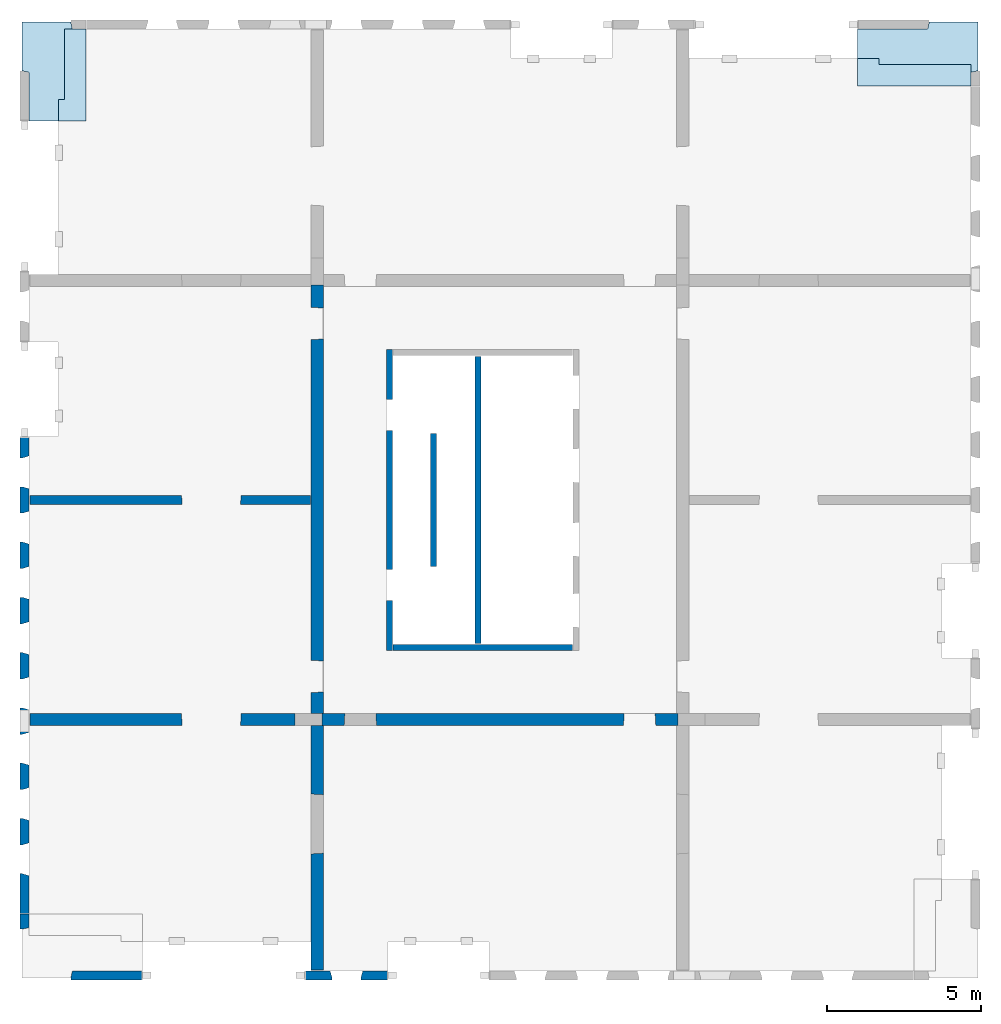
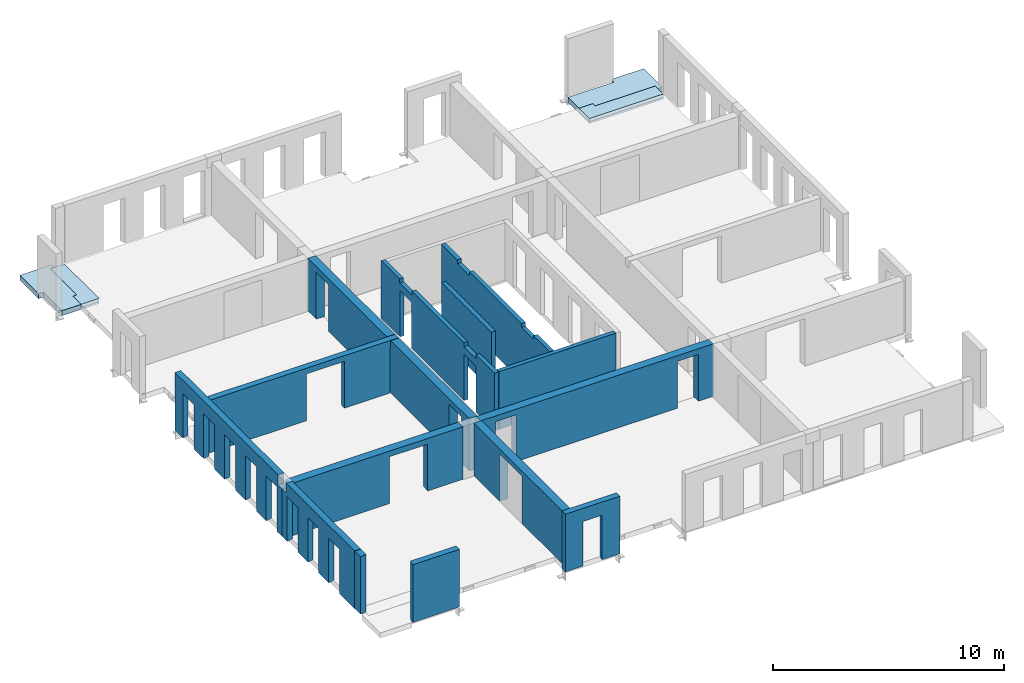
# One storey, part 2 of 4: 14 walls, 4 slabs, 34 openings.
"""IFC2X3 building model written with IfcOpenShell, lengths in millimetres."""

import ifcopenshell
import ifcopenshell.guid

model = None  # the IFC model being written
_history = None  # IfcOwnerHistory: only IFC2X3 demands one
_inside = {}  # id of a spatial element -> (the spatial element, [elements in it])
_under = {}  # id of a project, library or spatial element -> (it, [spatial elements below it])
_declared = {}  # id of a project -> (the project, [libraries it declares])
_typed = {}  # id of a type object -> (the type object, [elements of that type])
_made_of = {}  # id of a material, layer set ... -> (it, [elements and type objects made of it])


def new_model(schema):
    """Start an empty IFC model of exactly this schema.

    Asked for "IFC4X3", IfcOpenShell would pick the latest addendum, in which some entities
    have other attributes; the version numbers below select the first issue.
    IFC2X3 requires an IfcOwnerHistory on every rooted entity: one is made here for all.
    """
    global model, _history
    if schema == "IFC4X3":
        model = ifcopenshell.file(schema_version=(4, 3, 0, 0))
    else:
        model = ifcopenshell.file(schema=schema)
    _inside.clear()
    _under.clear()
    _declared.clear()
    _typed.clear()
    _made_of.clear()
    _history = None
    if model.schema == "IFC2X3":
        org = make("IfcOrganization", Name="unknown")
        user = make(
            "IfcPersonAndOrganization",
            ThePerson=make("IfcPerson", FamilyName="unknown"),
            TheOrganization=org,
        )
        app = make(
            "IfcApplication",
            ApplicationDeveloper=org,
            Version="unknown",
            ApplicationFullName="unknown",
            ApplicationIdentifier="unknown",
        )
        _history = make(
            "IfcOwnerHistory",
            OwningUser=user,
            OwningApplication=app,
            ChangeAction="ADDED",
            CreationDate=0,
        )
    return model


def make(cls, **values):
    """One entity of the class cls with the attributes given. An attribute that is None is left unset."""
    return model.create_entity(
        cls, **{name: value for name, value in values.items() if value is not None}
    )


def entity(cls, *values):
    """Any entity or typed value of the class cls, its attributes in the order of the schema. None: left unset."""
    e = model.create_entity(cls)
    for i, value in enumerate(values):
        if value is not None:
            e[i] = value
    return e


def rooted(cls, **values):
    """An entity with a GlobalId (a new one), such as an element, a storey or a relation."""
    return make(cls, GlobalId=ifcopenshell.guid.new(), OwnerHistory=_history, **values)


def si_unit(unit_type, name, prefix=None):
    """IfcSIUnit, for example si_unit("LENGTHUNIT", "METRE", prefix="MILLI")."""
    return make("IfcSIUnit", UnitType=unit_type, Prefix=prefix, Name=name)


def converted_unit(unit_type, name, factor, base, dimensions=None, offset=None):
    """IfcConversionBasedUnit, such as the inch: factor (a typed value) times the base unit."""
    return make(
        "IfcConversionBasedUnit"
        if offset is None
        else "IfcConversionBasedUnitWithOffset",
        ConversionOffset=offset,
        Dimensions=None
        if dimensions is None
        else entity("IfcDimensionalExponents", *dimensions),
        UnitType=unit_type,
        Name=name,
        ConversionFactor=make(
            "IfcMeasureWithUnit", ValueComponent=factor, UnitComponent=base
        ),
    )


def derived_unit(unit_type, elements):
    """IfcDerivedUnit: a product of units, each with its exponent."""
    return make(
        "IfcDerivedUnit",
        Elements=[
            make("IfcDerivedUnitElement", Unit=unit, Exponent=power)
            for unit, power in elements
        ],
        UnitType=unit_type,
    )


def assignment(units):
    """IfcUnitAssignment: the units of a project."""
    return None if units is None else make("IfcUnitAssignment", Units=units)


def point(xyz):
    """IfcCartesianPoint."""
    return None if xyz is None else make("IfcCartesianPoint", Coordinates=xyz)


def direction(xyz):
    """IfcDirection."""
    return None if xyz is None else make("IfcDirection", DirectionRatios=xyz)


def frame(location, z_axis=None, x_axis=None):
    """IfcAxis2Placement3D, a coordinate frame: its origin and axes. An axis left out is left unset."""
    return make(
        "IfcAxis2Placement3D",
        Location=point(location),
        Axis=direction(z_axis),
        RefDirection=direction(x_axis),
    )


def frame_2d(location, x_axis=None):
    """IfcAxis2Placement2D, a coordinate frame in the plane: its origin and x axis."""
    return make(
        "IfcAxis2Placement2D", Location=point(location), RefDirection=direction(x_axis)
    )


def origin():
    """The frame at (0, 0, 0) with its axes left unset."""
    return frame((0.0, 0.0, 0.0))


def place(relative_to, where):
    """IfcLocalPlacement: puts the frame where relative to a parent placement (None: the world)."""
    return make(
        "IfcLocalPlacement", PlacementRelTo=relative_to, RelativePlacement=where
    )


def context(
    kind, dimensions, precision=None, world=None, true_north=None, identifier=None
):
    """IfcGeometricRepresentationContext, for example the 3D "Model" context."""
    return make(
        "IfcGeometricRepresentationContext",
        ContextIdentifier=identifier,
        ContextType=kind,
        CoordinateSpaceDimension=dimensions,
        Precision=precision,
        WorldCoordinateSystem=world,
        TrueNorth=true_north,
    )


def subcontext(parent, identifier, kind, view, scale=None):
    """IfcGeometricRepresentationSubContext, for example "Body" below "Model"."""
    return make(
        "IfcGeometricRepresentationSubContext",
        ContextIdentifier=identifier,
        ContextType=kind,
        ParentContext=parent,
        TargetScale=scale,
        TargetView=view,
    )


def project(units=None, contexts=None):
    """IfcProject with its units and contexts."""
    return rooted(
        "IfcProject",
        Name="project",
        RepresentationContexts=contexts,
        UnitsInContext=assignment(units),
    )


def spatial(cls, under=None, at=None, **own):
    """A site, building, storey or space (cls), placed at a placement, below another one or the project."""
    s = rooted(cls, ObjectPlacement=at, **own)
    if under is not None:
        _under.setdefault(under.id(), (under, []))[1].append(s)
    return s


def polyline(points):
    """IfcPolyline through the points."""
    return make("IfcPolyline", Points=[point(p) for p in points])


def profile(cls, at=None, kind="AREA", **sizes):
    """A parametric profile (cls). Its sizes go by their IFC names, for example OverallWidth=200.0."""
    return make(cls, ProfileType=kind, Position=at, **sizes)


def rectangle(**sizes):
    """IfcRectangleProfileDef."""
    return profile("IfcRectangleProfileDef", **sizes)


def outline(outer, holes=None, kind="AREA"):
    """IfcArbitraryClosedProfileDef: a profile drawn as a closed curve; with holes, ...WithVoids."""
    if holes is None:
        return make("IfcArbitraryClosedProfileDef", ProfileType=kind, OuterCurve=outer)
    return make(
        "IfcArbitraryProfileDefWithVoids",
        ProfileType=kind,
        OuterCurve=outer,
        InnerCurves=holes,
    )


def extrude(swept, where, along, depth):
    """IfcExtrudedAreaSolid: the profile swept, set in the frame where, extruded along a direction by depth."""
    return make(
        "IfcExtrudedAreaSolid",
        SweptArea=swept,
        Position=where,
        ExtrudedDirection=direction(along),
        Depth=depth,
    )


def faces_of(points, faces, orient=None, outer=None):
    """IfcFace entities. A face is a list of loops; a loop is a list of indices into points, from 0.

    orient and outer hold one flag for each loop. By default every Orientation is true, the
    first loop of a face is its IfcFaceOuterBound and the others are IfcFaceBound.
    """
    made = []
    for i, loops in enumerate(faces):
        bounds = []
        for j, loop in enumerate(loops):
            is_outer = j == 0 if outer is None else outer[i][j]
            bounds.append(
                make(
                    "IfcFaceOuterBound" if is_outer else "IfcFaceBound",
                    Bound=make("IfcPolyLoop", Polygon=[points[k] for k in loop]),
                    Orientation=True if orient is None else orient[i][j],
                )
            )
        made.append(make("IfcFace", Bounds=bounds))
    return made


def faceted_brep(points, faces, orient=None, outer=None, voids=None):
    """IfcFacetedBrep: a solid bounded by flat faces; with voids (closed shells), ...WithVoids."""
    shared = [point(p) for p in points]
    hull = make("IfcClosedShell", CfsFaces=faces_of(shared, faces, orient, outer))
    if voids is None:
        return make("IfcFacetedBrep", Outer=hull)
    return make(
        "IfcFacetedBrepWithVoids",
        Outer=hull,
        Voids=[
            make(cls, CfsFaces=faces_of(shared, fs, o, b)) for cls, fs, o, b in voids
        ],
    )


def shape(context_of_items, identifier, shape_type, items):
    """IfcShapeRepresentation: the items that make up one representation, for example the "Body"."""
    return make(
        "IfcShapeRepresentation",
        ContextOfItems=context_of_items,
        RepresentationIdentifier=identifier,
        RepresentationType=shape_type,
        Items=items,
    )


def material(Name=None, Category=None):
    """IfcMaterial."""
    return make("IfcMaterial", Name=Name, Category=Category)


def layer(
    of_material, thickness, ventilated=None, Name=None, Category=None, Priority=None
):
    """IfcMaterialLayer: one layer of a wall or slab, of a material (None: an air gap)."""
    return make(
        "IfcMaterialLayer",
        Material=of_material,
        LayerThickness=thickness,
        IsVentilated=ventilated,
        Name=Name,
        Category=Category,
        Priority=Priority,
    )


def layer_set(layers, Name=None):
    """IfcMaterialLayerSet."""
    return make("IfcMaterialLayerSet", MaterialLayers=layers, LayerSetName=Name)


def layer_usage(for_layer_set, set_direction, sense, offset, extent=None):
    """IfcMaterialLayerSetUsage: how a layer set lies in its element."""
    return make(
        "IfcMaterialLayerSetUsage",
        ForLayerSet=for_layer_set,
        LayerSetDirection=set_direction,
        DirectionSense=sense,
        OffsetFromReferenceLine=offset,
        ReferenceExtent=extent,
    )


def made_of(thing, what):
    """Note that an element or type object is made of a material, layer set ...; save() writes the relation."""
    if what is not None:
        _made_of.setdefault(what.id(), (what, []))[1].append(thing)
    return thing


def type_object(cls, material=None, **own):
    """A type object (cls), such as IfcWallType, which elements share."""
    return made_of(rooted(cls, **own), material)


def element(
    cls,
    number,
    at=None,
    inside=None,
    cuts=None,
    type_object=None,
    material=None,
    context=None,
    identifier="Body",
    shape_type=None,
    held_by="IfcProductDefinitionShape",
    body=None,
    shapes=None,
    **own,
):
    """One element of the class cls, such as IfcWall. Its Tag is "e" and its number.

    at: its placement. inside: the storey or other place that contains it. cuts: it is an
    opening in that element (IfcRelVoidsElement). A single representation is given by context,
    identifier, shape_type and body (its items); several are given by shapes. held_by: the class
    of the entity that holds the representations. save() writes the other relations.
    """
    e = rooted(cls, Tag="e%d" % number, ObjectPlacement=at, **own)
    if body is not None:
        shapes = [shape(context, identifier, shape_type, body)]
    if shapes is not None:
        e.Representation = make(held_by, Representations=shapes)
    if inside is not None:
        _inside.setdefault(inside.id(), (inside, []))[1].append(e)
    if cuts is not None:
        rooted(
            "IfcRelVoidsElement", RelatingBuildingElement=cuts, RelatedOpeningElement=e
        )
    if type_object is not None:
        _typed.setdefault(type_object.id(), (type_object, []))[1].append(e)
    return made_of(e, material)


def aggregate(whole, parts):
    """IfcRelAggregates: a whole, such as a stair, and the parts it consists of."""
    return rooted("IfcRelAggregates", RelatingObject=whole, RelatedObjects=parts)


def save(model, path):
    """Write the relations noted so far, then the file.

    IfcRelAggregates (storeys below a building ...), IfcRelContainedInSpatialStructure (elements
    in a storey), IfcRelDefinesByType, IfcRelAssociatesMaterial and IfcRelDeclares: one each for
    every whole, place, type object, material and project.
    """
    for whole, parts in _under.values():
        aggregate(whole, parts)
    for where, things in _inside.values():
        rooted(
            "IfcRelContainedInSpatialStructure",
            RelatedElements=things,
            RelatingStructure=where,
        )
    for kind, things in _typed.values():
        rooted("IfcRelDefinesByType", RelatedObjects=things, RelatingType=kind)
    for what, things in _made_of.values():
        rooted("IfcRelAssociatesMaterial", RelatedObjects=things, RelatingMaterial=what)
    for by, libraries in _declared.values():
        rooted("IfcRelDeclares", RelatingContext=by, RelatedDefinitions=libraries)
    model.write(path)


model = new_model("IFC2X3")

# Units and contexts
model_context = context("Model", 3, precision=0.01, world=origin(), true_north=direction((6.12303176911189e-17, 1.0)))
body_context = subcontext(model_context, "Body", "Model", "MODEL_VIEW")
ifc_project = project(units=[si_unit("LENGTHUNIT", "METRE", prefix="MILLI"), si_unit("AREAUNIT", "SQUARE_METRE"), si_unit("VOLUMEUNIT", "CUBIC_METRE"), converted_unit("PLANEANGLEUNIT", "DEGREE", entity("IfcRatioMeasure", 0.0174532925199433), si_unit("PLANEANGLEUNIT", "RADIAN"), dimensions=[0, 0, 0, 0, 0, 0, 0]), si_unit("MASSUNIT", "GRAM", prefix="KILO"), derived_unit("MASSDENSITYUNIT", [(si_unit("MASSUNIT", "GRAM", prefix="KILO"), 1), (si_unit("LENGTHUNIT", "METRE"), -3)]), si_unit("TIMEUNIT", "SECOND"), si_unit("FREQUENCYUNIT", "HERTZ"), si_unit("THERMODYNAMICTEMPERATUREUNIT", "DEGREE_CELSIUS"), derived_unit("THERMALTRANSMITTANCEUNIT", [(si_unit("MASSUNIT", "GRAM", prefix="KILO"), 1), (si_unit("THERMODYNAMICTEMPERATUREUNIT", "KELVIN"), -1), (si_unit("TIMEUNIT", "SECOND"), -3)]), derived_unit("VOLUMETRICFLOWRATEUNIT", [(si_unit("LENGTHUNIT", "METRE"), 3), (si_unit("TIMEUNIT", "SECOND"), -1)]), si_unit("ELECTRICCURRENTUNIT", "AMPERE"), si_unit("ELECTRICVOLTAGEUNIT", "VOLT"), si_unit("POWERUNIT", "WATT"), si_unit("FORCEUNIT", "NEWTON", prefix="KILO"), si_unit("ILLUMINANCEUNIT", "LUX"), si_unit("LUMINOUSFLUXUNIT", "LUMEN"), si_unit("LUMINOUSINTENSITYUNIT", "CANDELA"), derived_unit("USERDEFINED", [(si_unit("MASSUNIT", "GRAM", prefix="KILO"), -1), (si_unit("LENGTHUNIT", "METRE"), -2), (si_unit("TIMEUNIT", "SECOND"), 3), (si_unit("LUMINOUSFLUXUNIT", "LUMEN"), 1)]), derived_unit("LINEARVELOCITYUNIT", [(si_unit("LENGTHUNIT", "METRE"), 1), (si_unit("TIMEUNIT", "SECOND"), -1)]), si_unit("PRESSUREUNIT", "PASCAL"), derived_unit("USERDEFINED", [(si_unit("LENGTHUNIT", "METRE"), -2), (si_unit("MASSUNIT", "GRAM", prefix="KILO"), 1), (si_unit("TIMEUNIT", "SECOND"), -2)])], contexts=[model_context])

# Site, building, storey
site_placement = place(None, origin())
site = spatial("IfcSite", under=ifc_project, at=site_placement, Name="Default", CompositionType="ELEMENT")
building_placement = place(site_placement, origin())
building = spatial("IfcBuilding", under=site, at=building_placement, Name="niet gebruiken", CompositionType="ELEMENT")
storey_placement = place(building_placement, frame((0.0, 0.0, 112860.0)))
storey = spatial("IfcBuildingStorey", under=building, at=storey_placement, Name="36 zesendertigste verdieping", CompositionType="ELEMENT", Elevation=112860.0)

# Slabs
ifc_material_1 = material(Name="NLRS_f2_beton prefab")
ifc_layer_1 = layer(ifc_material_1, 270.0)
ifc_layer_set_1 = layer_set([ifc_layer_1], Name="Floor:NLRS_23.22_FL_beton prefab d=270 3D element_gen")
ifc_layer_usage_1 = layer_usage(ifc_layer_set_1, "AXIS3", "POSITIVE", 0.0)
slab_1_placement = place(storey_placement, origin())
element("IfcSlab", 1, at=slab_1_placement, inside=storey, material=ifc_layer_usage_1, Name="Floor:NLRS_23.22_FL_beton prefab d=270 3D element_gen", ObjectType="Floor:NLRS_23.22_FL_beton prefab d=270 3D element_gen", PredefinedType="LANDING", context=body_context, shape_type="SweptSolid", body=[
    extrude(outline(polyline([(-322.675940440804, -982.471394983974), (1267.47139498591, -982.471394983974), (1267.47139498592, 607.675940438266), (1034.47139498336, 655.152429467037), (1034.47139498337, 1100.5286050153), (-1955.52860501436, 1100.52860501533), (-1955.52860501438, -749.471394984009), (-370.152429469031, -749.471394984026), (-322.675940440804, -982.471394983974)])), frame((127169.471394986, 31795.5286050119, -90.0), z_axis=(0.0, 0.0, -1.0), x_axis=(0.0, 1.0, 0.0)), (0.0, 0.0, 1.0), 270.000000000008),
])
ifc_material_2 = material(Name="NLRS_f2_beton ihwg")
ifc_layer_2 = layer(ifc_material_2, 170.0)
ifc_layer_set_2 = layer_set([ifc_layer_2], Name="Floor:NLRS_23.21_FL_beton ihwg d=170_gen")
ifc_layer_usage_2 = layer_usage(ifc_layer_set_2, "AXIS3", "POSITIVE", 0.0)
slab_2_placement = place(storey_placement, origin())
element("IfcSlab", 2, at=slab_2_placement, inside=storey, material=ifc_layer_usage_2, Name="Floor:NLRS_23.21_FL_beton ihwg d=170_gen", ObjectType="Floor:NLRS_23.21_FL_beton ihwg d=170_gen", PredefinedType="FLOOR", context=body_context, shape_type="SweptSolid", body=[
    extrude(outline(polyline([(-1230.0, -366.666666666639), (-530.0, -366.666666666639), (-530.0, -166.66666666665), (1760.0, -166.666666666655), (1760.0, 533.333333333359), (-1230.0, 533.333333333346), (-1230.0, -366.666666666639)])), frame((127736.666666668, 31070.0, -90.0), z_axis=(0.0, 0.0, -1.0), x_axis=(0.0, 1.0, 0.0)), (0.0, 0.0, 1.0), 169.999999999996),
])
ifc_layer_usage_3 = layer_usage(ifc_layer_set_1, "AXIS3", "POSITIVE", 0.0)
slab_3_placement = place(storey_placement, origin())
element("IfcSlab", 3, at=slab_3_placement, inside=storey, material=ifc_layer_usage_3, Name="Floor:NLRS_23.22_FL_beton prefab d=270 3D element_gen", ObjectType="Floor:NLRS_23.22_FL_beton prefab d=270 3D element_gen", PredefinedType="LANDING", context=body_context, shape_type="SweptSolid", body=[
    extrude(outline(polyline([(-1100.52860501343, -2480.52860501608), (749.471394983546, -2480.52860501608), (749.471394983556, -195.152429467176), (982.471394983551, -147.675940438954), (982.471394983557, 1442.47139498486), (-607.675940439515, 1442.47139498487), (-655.152429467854, 1209.47139498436), (-1100.52860501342, 1209.47139498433), (-1100.52860501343, -2480.52860501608)])), frame((155870.528605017, 32080.5286050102, -90.0), z_axis=(0.0, 0.0, -1.0), x_axis=(0.0, 1.0, 0.0)), (0.0, 0.0, 1.0), 270.000000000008),
])
ifc_layer_usage_4 = layer_usage(ifc_layer_set_2, "AXIS3", "POSITIVE", 0.0)
slab_4_placement = place(storey_placement, origin())
element("IfcSlab", 4, at=slab_4_placement, inside=storey, material=ifc_layer_usage_4, Name="Floor:NLRS_23.21_FL_beton ihwg d=170_gen", ObjectType="Floor:NLRS_23.21_FL_beton ihwg d=170_gen", PredefinedType="FLOOR", context=body_context, shape_type="SweptSolid", body=[
    extrude(outline(polyline([(-533.333333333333, -1463.33333333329), (366.666666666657, -1463.33333333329), (366.666666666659, -763.333333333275), (166.66666666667, -763.333333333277), (166.666666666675, 2226.66666666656), (-533.333333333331, 2226.66666666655), (-533.333333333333, -1463.33333333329)])), frame((154853.333333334, 31513.3333333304, -90.0), z_axis=(0.0, 0.0, -1.0), x_axis=(0.0, 1.0, 0.0)), (0.0, 0.0, 1.0), 169.999999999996),
])

# Wall, openings
ifc_layer_3 = layer(ifc_material_1, 200.0)
ifc_layer_set_3 = layer_set([ifc_layer_3], Name="Basic Wall:NLRS_22.21_WA_beton prefab d=200_gen")
ifc_layer_usage_5 = layer_usage(ifc_layer_set_3, "AXIS2", "NEGATIVE", 100.0)
wall_type_1 = type_object("IfcWallType", Name="Basic Wall:NLRS_22.21_WA_beton prefab d=200_gen", PredefinedType="STANDARD", material=ifc_layer_set_3)
wall_1_placement = place(storey_placement, frame((138150.0, 22400.0, -50.0), z_axis=(0.0, 0.0, 1.0), x_axis=(0.0, -1.0, 0.0)))
wall_1 = element("IfcWallStandardCase", 5, at=wall_1_placement, inside=storey, type_object=wall_type_1, material=ifc_layer_usage_5, Name="Basic Wall:NLRS_22.21_WA_beton prefab d=200_gen", ObjectType="Basic Wall:NLRS_22.21_WA_beton prefab d=200_gen", context=body_context, shape_type="SweptSolid", body=[
    extrude(rectangle(XDim=9800.0, YDim=199.999999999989, at=frame_2d((4900.0, 3.76587649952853e-13), x_axis=(-1.0, 0.0))), origin(), (0.0, 0.0, 1.0), 3040.0),
])
opening_1_placement = place(wall_1_placement, origin())
element("IfcOpeningElement", 6, at=opening_1_placement, cuts=wall_1, Name="Basic Wall:NLRS_22.21_WA_beton prefab d=200_gen", ObjectType="Opening", context=body_context, shape_type="SweptSolid", body=[
    extrude(rectangle(XDim=200.000000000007, YDim=1044.0, at=frame_2d((8.66862137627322e-12, 0.0), x_axis=(1.0, 0.0))), frame((7672.0, -100.0, 2940.0), z_axis=(0.0, 1.0, 0.0), x_axis=(0.0, 0.0, -1.0)), (0.0, 0.0, 1.0), 199.999999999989),
])
opening_2_placement = place(wall_1_placement, origin())
element("IfcOpeningElement", 7, at=opening_2_placement, cuts=wall_1, Name="Basic Wall:NLRS_22.21_WA_beton prefab d=200_gen", ObjectType="Opening", context=body_context, shape_type="SweptSolid", body=[
    extrude(rectangle(XDim=200.000000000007, YDim=1044.0, at=frame_2d((8.66862137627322e-12, 2.1600499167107e-12), x_axis=(1.0, 0.0))), frame((2128.0, -100.0, 2940.0), z_axis=(0.0, 1.0, 0.0), x_axis=(0.0, 0.0, -1.0)), (0.0, 0.0, 1.0), 199.999999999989),
])
opening_3_placement = place(wall_1_placement, origin())
element("IfcOpeningElement", 8, at=opening_3_placement, cuts=wall_1, Name="Basic Wall:NLRS_22.21_WA_beton prefab d=200_gen", ObjectType="Opening", context=body_context, shape_type="SweptSolid", body=[
    extrude(rectangle(XDim=2435.0, YDim=1015.99999999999, at=frame_2d((0.0, 1.10844666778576e-12), x_axis=(1.0, 0.0))), frame((7672.0, -100.0, 1217.50000000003), z_axis=(0.0, 1.0, 0.0), x_axis=(0.0, 0.0, -1.0)), (0.0, 0.0, 1.0), 199.999999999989),
])
opening_4_placement = place(wall_1_placement, origin())
element("IfcOpeningElement", 9, at=opening_4_placement, cuts=wall_1, Name="Basic Wall:NLRS_22.21_WA_beton prefab d=200_gen", ObjectType="Opening", context=body_context, shape_type="SweptSolid", body=[
    extrude(rectangle(XDim=2435.0, YDim=1015.99999999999, at=frame_2d((0.0, -2.18847162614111e-12), x_axis=(1.0, 0.0))), frame((2128.0, -100.0, 1217.50000000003), z_axis=(0.0, 1.0, 0.0), x_axis=(0.0, 0.0, -1.0)), (0.0, 0.0, 1.0), 199.999999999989),
])

ifc_layer_usage_6 = layer_usage(ifc_layer_set_3, "AXIS2", "NEGATIVE", 100.0)
wall_2_placement = place(storey_placement, frame((141030.0, 22180.0, -50.0), z_axis=(0.0, 0.0, 1.0), x_axis=(0.0, -1.0, 0.0)))
wall_2 = element("IfcWallStandardCase", 10, at=wall_2_placement, inside=storey, type_object=wall_type_1, material=ifc_layer_usage_6, Name="Basic Wall:NLRS_22.21_WA_beton prefab d=200_gen", ObjectType="Basic Wall:NLRS_22.21_WA_beton prefab d=200_gen", context=body_context, shape_type="SweptSolid", body=[
    extrude(rectangle(XDim=9360.0, YDim=199.999999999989, at=frame_2d((4680.0, -2.8421709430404e-14), x_axis=(-1.0, 0.0))), origin(), (0.0, 0.0, 1.0), 3040.0),
])
opening_5_placement = place(wall_2_placement, origin())
element("IfcOpeningElement", 11, at=opening_5_placement, cuts=wall_2, Name="Basic Wall:NLRS_22.21_WA_beton prefab d=200_gen", ObjectType="Opening", context=body_context, shape_type="SweptSolid", body=[
    extrude(rectangle(XDim=70.0000000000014, YDim=1044.00000000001, at=frame_2d((-8.66506866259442e-12, 0.0), x_axis=(1.0, 0.0))), frame((7452.0, -100.0, 35.0), z_axis=(0.0, 1.0, 0.0), x_axis=(0.0, 0.0, -1.0)), (0.0, 0.0, 1.0), 199.999999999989),
])
opening_6_placement = place(wall_2_placement, origin())
element("IfcOpeningElement", 12, at=opening_6_placement, cuts=wall_2, Name="Basic Wall:NLRS_22.21_WA_beton prefab d=200_gen", ObjectType="Opening", context=body_context, shape_type="SweptSolid", body=[
    extrude(rectangle(XDim=70.0000000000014, YDim=1044.00000000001, at=frame_2d((-8.66506866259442e-12, 0.0), x_axis=(1.0, 0.0))), frame((1908.0, -100.0, 35.0), z_axis=(0.0, 1.0, 0.0), x_axis=(0.0, 0.0, -1.0)), (0.0, 0.0, 1.0), 199.999999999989),
])
opening_7_placement = place(wall_2_placement, origin())
element("IfcOpeningElement", 13, at=opening_7_placement, cuts=wall_2, Name="Basic Wall:NLRS_22.21_WA_beton prefab d=200_gen", ObjectType="Opening", context=body_context, shape_type="SweptSolid", body=[
    extrude(rectangle(XDim=200.000000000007, YDim=1044.00000000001, at=frame_2d((8.66862137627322e-12, 0.0), x_axis=(1.0, 0.0))), frame((1908.0, -100.0, 2940.0), z_axis=(0.0, 1.0, 0.0), x_axis=(0.0, 0.0, -1.0)), (0.0, 0.0, 1.0), 199.999999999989),
])
opening_8_placement = place(wall_2_placement, origin())
element("IfcOpeningElement", 14, at=opening_8_placement, cuts=wall_2, Name="Basic Wall:NLRS_22.21_WA_beton prefab d=200_gen", ObjectType="Opening", context=body_context, shape_type="SweptSolid", body=[
    extrude(rectangle(XDim=200.000000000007, YDim=1044.00000000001, at=frame_2d((8.66862137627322e-12, 0.0), x_axis=(1.0, 0.0))), frame((7452.0, -100.0, 2940.0), z_axis=(0.0, 1.0, 0.0), x_axis=(0.0, 0.0, -1.0)), (0.0, 0.0, 1.0), 199.999999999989),
])
opening_9_placement = place(wall_2_placement, origin())
element("IfcOpeningElement", 15, at=opening_9_placement, cuts=wall_2, Name="Basic Wall:NLRS_22.21_WA_beton prefab d=200_gen", ObjectType="Recess", context=body_context, shape_type="SweptSolid", body=[
    extrude(rectangle(XDim=399.999999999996, YDim=280.000000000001, at=frame_2d((-2.1600499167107e-12, -8.66862137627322e-12), x_axis=(0.0, 1.0))), frame((770.0, -60.0, 438.0), z_axis=(0.0, 1.0, 0.0), x_axis=(1.0, 0.0, 0.0)), (0.0, 0.0, 1.0), 159.999999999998),
])
opening_10_placement = place(wall_2_placement, origin())
element("IfcOpeningElement", 16, at=opening_10_placement, cuts=wall_2, Name="Basic Wall:NLRS_22.21_WA_beton prefab d=200_gen", ObjectType="Recess", context=body_context, shape_type="SweptSolid", body=[
    extrude(rectangle(XDim=399.999999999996, YDim=280.000000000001, at=frame_2d((-2.1600499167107e-12, -8.66862137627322e-12), x_axis=(0.0, 1.0))), frame((1570.0, -60.0, 438.0), z_axis=(0.0, 1.0, 0.0), x_axis=(1.0, 0.0, 0.0)), (0.0, 0.0, 1.0), 159.999999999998),
])
opening_11_placement = place(wall_2_placement, origin())
element("IfcOpeningElement", 17, at=opening_11_placement, cuts=wall_2, Name="Basic Wall:NLRS_22.21_WA_beton prefab d=200_gen", ObjectType="Recess", context=body_context, shape_type="SweptSolid", body=[
    extrude(rectangle(XDim=399.999999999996, YDim=279.999999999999, at=frame_2d((-1.08002495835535e-12, -8.66862137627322e-12), x_axis=(0.0, 1.0))), frame((3160.0, -60.0, 438.0), z_axis=(0.0, 1.0, 0.0), x_axis=(1.0, 0.0, 0.0)), (0.0, 0.0, 1.0), 159.999999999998),
])
opening_12_placement = place(wall_2_placement, origin())
element("IfcOpeningElement", 18, at=opening_12_placement, cuts=wall_2, Name="Basic Wall:NLRS_22.21_WA_beton prefab d=200_gen", ObjectType="Recess", context=body_context, shape_type="SweptSolid", body=[
    extrude(rectangle(XDim=399.999999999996, YDim=279.999999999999, at=frame_2d((1.08002495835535e-12, -8.66862137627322e-12), x_axis=(0.0, 1.0))), frame((3960.0, -60.0, 438.0), z_axis=(0.0, 1.0, 0.0), x_axis=(1.0, 0.0, 0.0)), (0.0, 0.0, 1.0), 159.999999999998),
])

# Walls
ifc_layer_usage_7 = layer_usage(ifc_layer_set_3, "AXIS2", "NEGATIVE", 100.0)
wall_3_placement = place(storey_placement, frame((139590.0, 19660.0, -50.0), z_axis=(0.0, 0.0, 1.0), x_axis=(0.0, -1.0, 0.0)))
element("IfcWallStandardCase", 19, at=wall_3_placement, inside=storey, type_object=wall_type_1, material=ifc_layer_usage_7, Name="Basic Wall:NLRS_22.21_WA_beton prefab d=200_gen", ObjectType="Basic Wall:NLRS_22.21_WA_beton prefab d=200_gen", context=body_context, shape_type="SweptSolid", body=[
    extrude(rectangle(XDim=4320.00000000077, YDim=199.999999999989, at=frame_2d((2160.00000000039, 0.0), x_axis=(-1.0, 0.0))), origin(), (0.0, 0.0, 1.0), 3040.0),
])
ifc_layer_usage_8 = layer_usage(ifc_layer_set_3, "AXIS2", "NEGATIVE", 100.0)
wall_4_placement = place(storey_placement, frame((138270.0, 12700.0, -50.0)))
element("IfcWallStandardCase", 20, at=wall_4_placement, inside=storey, type_object=wall_type_1, material=ifc_layer_usage_8, Name="Basic Wall:NLRS_22.21_WA_beton prefab d=200_gen", ObjectType="Basic Wall:NLRS_22.21_WA_beton prefab d=200_gen", context=body_context, shape_type="SweptSolid", body=[
    extrude(rectangle(XDim=5839.99999999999, YDim=199.999999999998, at=frame_2d((2919.99999999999, -6.82121026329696e-13), x_axis=(-1.0, 0.0))), origin(), (0.0, 0.0, 1.0), 3040.0),
])

# Wall, openings
ifc_layer_4 = layer(ifc_material_1, 300.0)
ifc_layer_set_4 = layer_set([ifc_layer_4], Name="Basic Wall:NLRS_22.21_WA_beton prefab d=300_gen")
ifc_layer_usage_9 = layer_usage(ifc_layer_set_4, "AXIS2", "NEGATIVE", 150.0)
wall_type_2 = type_object("IfcWallType", Name="Basic Wall:NLRS_22.21_WA_beton prefab d=300_gen", PredefinedType="STANDARD", material=ifc_layer_set_4)
wall_5_placement = place(storey_placement, frame((126440.0, 17500.0, -70.0)))
wall_5 = element("IfcWallStandardCase", 21, at=wall_5_placement, inside=storey, type_object=wall_type_2, material=ifc_layer_usage_9, Name="Basic Wall:NLRS_22.21_WA_beton prefab d=300_gen", ObjectType="Basic Wall:NLRS_22.21_WA_beton prefab d=300_gen", context=body_context, shape_type="SweptSolid", body=[
    extrude(rectangle(XDim=9559.9999999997, YDim=300.000000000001, at=frame_2d((4779.99999999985, -5.54223333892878e-13), x_axis=(-1.0, 0.0))), origin(), (0.0, 0.0, 1.0), 2769.99999999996),
])
opening_13_placement = place(wall_5_placement, frame((4942.0, -150.0, 0.0)))
element("IfcOpeningElement", 22, at=opening_13_placement, cuts=wall_5, Name="Basic Wall:NLRS_22.21_WA_beton prefab d=300_gen", ObjectType="Opening", context=body_context, shape_type="Brep", body=[
    faceted_brep([(1918.0, 0.0, 2470.0), (18.0, 0.0, 2470.0), (18.0, 0.0, 0.0), (1918.0, 0.0, 0.0), (1936.0, 300.0, 2488.0), (1936.0, 300.0, 0.0), (0.0, 300.0, 0.0), (0.0, 300.0, 2488.0)], [[[0, 1, 2, 3]], [[4, 5, 6, 7]], [[4, 7, 1, 0]], [[7, 6, 2, 1]], [[6, 5, 3, 2]], [[5, 4, 0, 3]]]),
])
opening_14_placement = place(wall_5_placement, origin())
element("IfcOpeningElement", 23, at=opening_14_placement, cuts=wall_5, Name="Basic Wall:NLRS_22.21_WA_beton prefab d=300_gen", ObjectType="Opening", context=body_context, shape_type="SweptSolid", body=[
    extrude(rectangle(XDim=2439.99999999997, YDim=420.000000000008, at=frame_2d((0.0, 0.0), x_axis=(0.0, 1.0))), frame((9350.0, 150.0, 1220.0), z_axis=(0.0, -1.0, 0.0), x_axis=(1.0, 0.0, 0.0)), (0.0, 0.0, 1.0), 300.0),
])

# Wall, opening
ifc_layer_5 = layer(ifc_material_1, 400.0)
ifc_layer_set_5 = layer_set([ifc_layer_5], Name="Basic Wall:NLRS_22.21_WA_beton prefab d=400_gen")
ifc_layer_usage_10 = layer_usage(ifc_layer_set_5, "AXIS2", "NEGATIVE", 200.0)
wall_type_3 = type_object("IfcWallType", Name="Basic Wall:NLRS_22.21_WA_beton prefab d=400_gen", PredefinedType="STANDARD", material=ifc_layer_set_5)
wall_6_placement = place(storey_placement, frame((135800.0, 10150.0, -70.0), z_axis=(0.0, 0.0, 1.0), x_axis=(0.0, -1.0, 0.0)))
wall_6 = element("IfcWallStandardCase", 24, at=wall_6_placement, inside=storey, type_object=wall_type_3, material=ifc_layer_usage_10, Name="Basic Wall:NLRS_22.21_WA_beton prefab d=400_gen", ObjectType="Basic Wall:NLRS_22.21_WA_beton prefab d=400_gen", context=body_context, shape_type="SweptSolid", body=[
    extrude(rectangle(XDim=7959.99999999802, YDim=400.000000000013, at=frame_2d((3979.99999999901, 4.54747350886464e-13), x_axis=(-1.0, 0.0))), origin(), (0.0, 0.0, 1.0), 2770.00000000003),
])
opening_15_placement = place(wall_6_placement, frame((4174.0, -200.0, 0.0)))
element("IfcOpeningElement", 25, at=opening_15_placement, cuts=wall_6, Name="Basic Wall:NLRS_22.21_WA_beton prefab d=400_gen", ObjectType="Opening", context=body_context, shape_type="Brep", body=[
    faceted_brep([(-24.0, 400.0, 2470.0), (-24.0, 400.0, 0.0), (-1924.0, 400.0, 0.0), (-1924.0, 400.0, 2470.0), (0.0, 0.0, 2494.0), (-1948.0, 0.0, 2494.0), (-1948.0, 0.0, 0.0), (0.0, 0.0, 0.0)], [[[0, 1, 2, 3]], [[4, 5, 6, 7]], [[4, 0, 3, 5]], [[5, 3, 2, 6]], [[6, 2, 1, 7]], [[7, 1, 0, 4]]]),
])

# Wall, openings
ifc_layer_usage_11 = layer_usage(ifc_layer_set_5, "AXIS2", "NEGATIVE", 200.0)
wall_7_placement = place(storey_placement, frame((135950.003540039, 10350.0, -70.0)))
wall_7 = element("IfcWallStandardCase", 26, at=wall_7_placement, inside=storey, type_object=wall_type_3, material=ifc_layer_usage_11, Name="Basic Wall:NLRS_22.21_WA_beton prefab d=400_gen", ObjectType="Basic Wall:NLRS_22.21_WA_beton prefab d=400_gen", context=body_context, shape_type="SweptSolid", body=[
    extrude(rectangle(XDim=11599.9964599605, YDim=400.0, at=frame_2d((5799.99822998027, 1.56319401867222e-13), x_axis=(-1.0, 0.0))), origin(), (0.0, 0.0, 1.0), 2770.00000000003),
])
opening_16_placement = place(wall_7_placement, frame((725.996459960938, -200.0, 0.0)))
element("IfcOpeningElement", 27, at=opening_16_placement, cuts=wall_7, Name="Basic Wall:NLRS_22.21_WA_beton prefab d=400_gen", ObjectType="Opening", context=body_context, shape_type="Brep", body=[
    faceted_brep([(0.0, 0.0, 2472.0), (24.0, 400.0, 2448.0), (24.0, 400.0, 0.0), (0.0, 0.0, 0.0), (1030.0, 400.0, 0.0), (1054.0, 0.0, 0.0), (1030.0, 400.0, 2448.0), (1054.0, 0.0, 2472.0)], [[[0, 1, 2, 3]], [[3, 2, 4, 5]], [[6, 4, 2, 1]], [[7, 0, 3, 5]], [[7, 6, 1, 0]], [[5, 4, 6, 7]]]),
])
opening_17_placement = place(wall_7_placement, frame((9819.99645996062, -200.0, 0.0)))
element("IfcOpeningElement", 28, at=opening_17_placement, cuts=wall_7, Name="Basic Wall:NLRS_22.21_WA_beton prefab d=400_gen", ObjectType="Opening", context=body_context, shape_type="Brep", body=[
    faceted_brep([(0.0, 0.0, 2472.0), (24.0, 400.0, 2448.0), (24.0, 400.0, 0.0), (0.0, 0.0, 0.0), (1030.0, 400.0, 0.0), (1054.0, 0.0, 0.0), (1030.0, 400.0, 2448.0), (1054.0, 0.0, 2472.0)], [[[0, 1, 2, 3]], [[3, 2, 4, 5]], [[6, 4, 2, 1]], [[7, 0, 3, 5]], [[7, 6, 1, 0]], [[5, 4, 6, 7]]]),
])

# Wall, opening
ifc_layer_usage_12 = layer_usage(ifc_layer_set_5, "AXIS2", "NEGATIVE", 200.0)
wall_8_placement = place(storey_placement, frame((126440.0, 10350.0, -70.0)))
wall_8 = element("IfcWallStandardCase", 29, at=wall_8_placement, inside=storey, type_object=wall_type_3, material=ifc_layer_usage_12, Name="Basic Wall:NLRS_22.21_WA_beton prefab d=400_gen", ObjectType="Basic Wall:NLRS_22.21_WA_beton prefab d=400_gen", context=body_context, shape_type="SweptSolid", body=[
    extrude(rectangle(XDim=8630.00354003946, YDim=400.0, at=frame_2d((4315.00177001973, -2.70006239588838e-13), x_axis=(-1.0, 0.0))), origin(), (0.0, 0.0, 1.0), 2770.00000000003),
])
opening_18_placement = place(wall_8_placement, frame((4936.0, -200.0, 0.0)))
element("IfcOpeningElement", 30, at=opening_18_placement, cuts=wall_8, Name="Basic Wall:NLRS_22.21_WA_beton prefab d=400_gen", ObjectType="Opening", context=body_context, shape_type="Brep", body=[
    faceted_brep([(1924.0, 0.0, 2470.0), (24.0, 0.0, 2470.0), (24.0, 0.0, 0.0), (1924.0, 0.0, 0.0), (1948.0, 400.0, 2494.0), (1948.0, 400.0, 0.0), (0.0, 400.0, 0.0), (0.0, 400.0, 2494.0)], [[[0, 1, 2, 3]], [[4, 5, 6, 7]], [[4, 7, 1, 0]], [[7, 6, 2, 1]], [[6, 5, 3, 2]], [[5, 4, 0, 3]]]),
])

# Wall, openings
ifc_layer_usage_13 = layer_usage(ifc_layer_set_5, "AXIS2", "NEGATIVE", 200.0)
wall_9_placement = place(storey_placement, frame((135800.0, 24500.0, -70.0), z_axis=(0.0, 0.0, 1.0), x_axis=(0.0, -1.0, 0.0)))
wall_9 = element("IfcWallStandardCase", 31, at=wall_9_placement, inside=storey, type_object=wall_type_3, material=ifc_layer_usage_13, Name="Basic Wall:NLRS_22.21_WA_beton prefab d=400_gen", ObjectType="Basic Wall:NLRS_22.21_WA_beton prefab d=400_gen", context=body_context, shape_type="SweptSolid", body=[
    extrude(rectangle(XDim=13950.0, YDim=400.000000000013, at=frame_2d((6974.99999999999, 2.8421709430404e-14), x_axis=(-1.0, 0.0))), origin(), (0.0, 0.0, 1.0), 2770.00000000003),
])
opening_19_placement = place(wall_9_placement, frame((13274.0, -200.0, 0.0)))
element("IfcOpeningElement", 32, at=opening_19_placement, cuts=wall_9, Name="Basic Wall:NLRS_22.21_WA_beton prefab d=400_gen", ObjectType="Opening", context=body_context, shape_type="Brep", body=[
    faceted_brep([(-1054.0, 0.0, 2472.0), (-1030.0, 400.0, 2448.0), (-1030.0, 400.0, 0.0), (-1054.0, 0.0, 0.0), (-24.0, 400.0, 0.0), (0.0, 0.0, 0.0), (-24.0, 400.0, 2448.0), (0.0, 0.0, 2472.0)], [[[0, 1, 2, 3]], [[3, 2, 4, 5]], [[6, 4, 2, 1]], [[7, 0, 3, 5]], [[7, 6, 1, 0]], [[5, 4, 6, 7]]]),
])
opening_20_placement = place(wall_9_placement, frame((1780.0, -200.0, 0.0)))
element("IfcOpeningElement", 33, at=opening_20_placement, cuts=wall_9, Name="Basic Wall:NLRS_22.21_WA_beton prefab d=400_gen", ObjectType="Opening", context=body_context, shape_type="Brep", body=[
    faceted_brep([(-1054.0, 0.0, 2472.0), (-1030.0, 400.0, 2448.0), (-1030.0, 400.0, 0.0), (-1054.0, 0.0, 0.0), (-24.0, 400.0, 0.0), (0.0, 0.0, 0.0), (-24.0, 400.0, 2448.0), (0.0, 0.0, 2472.0)], [[[0, 1, 2, 3]], [[3, 2, 4, 5]], [[6, 4, 2, 1]], [[7, 0, 3, 5]], [[7, 6, 1, 0]], [[5, 4, 6, 7]]]),
])
opening_21_placement = place(wall_9_placement, origin())
element("IfcOpeningElement", 34, at=opening_21_placement, cuts=wall_9, Name="Basic Wall:NLRS_22.21_WA_beton prefab d=400_gen", ObjectType="Opening", context=body_context, shape_type="SweptSolid", body=[
    extrude(rectangle(XDim=350.000000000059, YDim=339.999999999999, at=frame_2d((-1.08002495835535e-12, 1.73230318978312e-11), x_axis=(0.0, 1.0))), frame((7000.0, 200.0, 2595.0), z_axis=(0.0, -1.0, 0.0), x_axis=(-1.0, 0.0, 0.0)), (0.0, 0.0, 1.0), 400.0),
])

# Wall, opening
ifc_layer_6 = layer(ifc_material_1, 300.0)
ifc_layer_set_6 = layer_set([ifc_layer_6], Name="Basic Wall:NLRS_21.21_WA_beton prefab d=300/320_gen")
ifc_layer_usage_14 = layer_usage(ifc_layer_set_6, "AXIS2", "NEGATIVE", 150.0)
wall_type_4 = type_object("IfcWallType", Name="Basic Wall:NLRS_21.21_WA_beton prefab d=300/320_gen", PredefinedType="STANDARD", material=ifc_layer_set_6)
wall_10_placement = place(storey_placement, frame((138110.0, 2020.0, -50.0), z_axis=(0.0, 0.0, 1.0), x_axis=(-1.0, 0.0, 0.0)))
wall_10 = element("IfcWallStandardCase", 35, at=wall_10_placement, inside=storey, type_object=wall_type_4, material=ifc_layer_usage_14, Name="Basic Wall:NLRS_21.21_WA_beton prefab d=300/320_gen", ObjectType="Basic Wall:NLRS_21.21_WA_beton prefab d=300/320_gen", context=body_context, shape_type="SweptSolid", body=[
    extrude(rectangle(XDim=2720.00000000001, YDim=300.0, at=frame_2d((1360.0, -8.5265128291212e-14), x_axis=(-1.0, 0.0))), origin(), (0.0, 0.0, 1.0), 3040.0),
])
opening_22_placement = place(wall_10_placement, frame((1895.0, 150.0, -20.0)))
element("IfcOpeningElement", 36, at=opening_22_placement, cuts=wall_10, Name="Basic Wall:NLRS_21.21_WA_beton prefab d=300/320_gen", ObjectType="Opening", context=body_context, shape_type="Brep", body=[
    faceted_brep([(-1070.0, -300.0, 2405.0), (-1070.0, -300.0, 0.0), (0.0, -300.0, 0.0), (0.0, -300.0, 2405.0), (-65.0, -81.0, 2370.0), (-1005.0, -81.0, 2370.0), (-65.0, -81.0, 0.0), (-1005.0, -81.0, 0.0), (-1005.0, 0.0, 0.0), (-65.0, 0.0, 0.0), (-1005.0, 0.0, 2370.0), (-65.0, 0.0, 2370.0)], [[[0, 1, 2, 3]], [[3, 4, 5, 0]], [[2, 6, 4, 3]], [[1, 7, 8, 9, 6, 2]], [[0, 5, 7, 1]], [[10, 11, 9, 8]], [[10, 5, 4, 11]], [[11, 4, 6, 9]], [[8, 7, 5, 10]]]),
])

# Wall, openings
ifc_layer_usage_15 = layer_usage(ifc_layer_set_6, "AXIS2", "NEGATIVE", 150.0)
wall_11_placement = place(storey_placement, frame((126270.0, 4040.0, -50.0), z_axis=(0.0, 0.0, 1.0), x_axis=(0.0, 1.0, 0.0)))
wall_11 = element("IfcWallStandardCase", 37, at=wall_11_placement, inside=storey, type_object=wall_type_4, material=ifc_layer_usage_15, Name="Basic Wall:NLRS_21.21_WA_beton prefab d=300/320_gen", ObjectType="Basic Wall:NLRS_21.21_WA_beton prefab d=300/320_gen", context=body_context, shape_type="SweptSolid", body=[
    extrude(rectangle(XDim=6249.99999999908, YDim=300.000000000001, at=frame_2d((3124.99999999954, 0.0), x_axis=(-1.0, 0.0))), origin(), (0.0, 0.0, 1.0), 3039.99999999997),
])
opening_23_placement = place(wall_11_placement, frame((1225.0, 150.0, -20.0)))
element("IfcOpeningElement", 38, at=opening_23_placement, cuts=wall_11, Name="Basic Wall:NLRS_21.21_WA_beton prefab d=300/320_gen", ObjectType="Opening", context=body_context, shape_type="Brep", body=[
    faceted_brep([(0.0, -300.0, 2405.0), (0.0, -300.0, 0.0), (1070.0, -300.0, 0.0), (1070.0, -300.0, 2405.0), (1005.0, -81.0, 2370.0), (65.0, -81.0, 2370.0), (1005.0, -81.0, 0.0), (65.0, -81.0, 0.0), (65.0, 0.0, 0.0), (1005.0, 0.0, 0.0), (65.0, 0.0, 2370.0), (1005.0, 0.0, 2370.0)], [[[0, 1, 2, 3]], [[3, 4, 5, 0]], [[2, 6, 4, 3]], [[1, 7, 8, 9, 6, 2]], [[0, 5, 7, 1]], [[10, 11, 9, 8]], [[10, 5, 4, 11]], [[11, 4, 6, 9]], [[8, 7, 5, 10]]]),
])
opening_24_placement = place(wall_11_placement, frame((3025.0, 150.0, -20.0)))
element("IfcOpeningElement", 39, at=opening_24_placement, cuts=wall_11, Name="Basic Wall:NLRS_21.21_WA_beton prefab d=300/320_gen", ObjectType="Opening", context=body_context, shape_type="Brep", body=[
    faceted_brep([(0.0, -300.0, 2405.0), (0.0, -300.0, 0.0), (1070.0, -300.0, 0.0), (1070.0, -300.0, 2405.0), (1005.0, -81.0, 2370.0), (65.0, -81.0, 2370.0), (1005.0, -81.0, 0.0), (65.0, -81.0, 0.0), (65.0, 0.0, 0.0), (1005.0, 0.0, 0.0), (65.0, 0.0, 2370.0), (1005.0, 0.0, 2370.0)], [[[0, 1, 2, 3]], [[3, 4, 5, 0]], [[2, 6, 4, 3]], [[1, 7, 8, 9, 6, 2]], [[0, 5, 7, 1]], [[10, 11, 9, 8]], [[10, 5, 4, 11]], [[11, 4, 6, 9]], [[8, 7, 5, 10]]]),
])
opening_25_placement = place(wall_11_placement, frame((4825.0, 150.0, -20.0)))
element("IfcOpeningElement", 40, at=opening_25_placement, cuts=wall_11, Name="Basic Wall:NLRS_21.21_WA_beton prefab d=300/320_gen", ObjectType="Opening", context=body_context, shape_type="Brep", body=[
    faceted_brep([(0.0, -300.0, 2405.0), (0.0, -300.0, 0.0), (1070.0, -300.0, 0.0), (1070.0, -300.0, 2405.0), (1005.0, -81.0, 2370.0), (65.0, -81.0, 2370.0), (1005.0, -81.0, 0.0), (65.0, -81.0, 0.0), (65.0, 0.0, 0.0), (1005.0, 0.0, 0.0), (65.0, 0.0, 2370.0), (1005.0, 0.0, 2370.0)], [[[0, 1, 2, 3]], [[3, 4, 5, 0]], [[2, 6, 4, 3]], [[1, 7, 8, 9, 6, 2]], [[0, 5, 7, 1]], [[10, 11, 9, 8]], [[10, 5, 4, 11]], [[11, 4, 6, 9]], [[8, 7, 5, 10]]]),
])
opening_26_placement = place(wall_11_placement, origin())
element("IfcOpeningElement", 41, at=opening_26_placement, cuts=wall_11, Name="Basic Wall:NLRS_21.21_WA_beton prefab d=300/320_gen", ObjectType="Opening", context=body_context, shape_type="SweptSolid", body=[
    extrude(rectangle(XDim=534.99999999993, YDim=344.999999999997, at=frame_2d((0.0, 1.08002495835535e-12), x_axis=(1.0, 0.0))), frame((6077.49999999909, 150.0, 2772.5), z_axis=(0.0, -1.0, 0.0), x_axis=(0.0, 0.0, 1.0)), (0.0, 0.0, 1.0), 300.0),
])

# Wall, opening
ifc_layer_usage_16 = layer_usage(ifc_layer_set_6, "AXIS2", "NEGATIVE", 150.0)
wall_12_placement = place(storey_placement, frame((130110.0, 2020.0, -50.0), z_axis=(0.0, 0.0, 1.0), x_axis=(-1.0, 0.0, 0.0)))
wall_12 = element("IfcWallStandardCase", 42, at=wall_12_placement, inside=storey, type_object=wall_type_4, material=ifc_layer_usage_16, Name="Basic Wall:NLRS_21.21_WA_beton prefab d=300/320_gen", ObjectType="Basic Wall:NLRS_21.21_WA_beton prefab d=300/320_gen", context=body_context, shape_type="SweptSolid", body=[
    extrude(rectangle(XDim=2330.00000000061, YDim=300.0, at=frame_2d((1165.00000000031, -5.6843418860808e-14), x_axis=(-1.0, 0.0))), origin(), (0.0, 0.0, 1.0), 3040.0),
])
opening_27_placement = place(wall_12_placement, frame((2330.0, 69.0, 0.0)))
element("IfcOpeningElement", 43, at=opening_27_placement, cuts=wall_12, Name="Basic Wall:NLRS_21.21_WA_beton prefab d=300/320_gen", ObjectType="Opening", context=body_context, shape_type="Brep", body=[
    faceted_brep([(0.0, -319.0, 3040.0), (0.0, 0.0, 3040.0), (-65.0, -319.0, 3040.0), (0.0, -319.0, 0.0), (-65.0, -319.0, 0.0), (0.0, 0.0, 0.0)], [[[0, 1, 2]], [[3, 4, 5]], [[2, 4, 3, 0]], [[0, 3, 5, 1]], [[1, 5, 4, 2]]]),
])

ifc_layer_usage_17 = layer_usage(ifc_layer_set_6, "AXIS2", "NEGATIVE", 150.0)
wall_13_placement = place(storey_placement, frame((126270.0, 3530.0, -50.0), z_axis=(0.0, 0.0, 1.0), x_axis=(0.0, 1.0, 0.0)))
wall_13 = element("IfcWallStandardCase", 44, at=wall_13_placement, inside=storey, type_object=wall_type_4, material=ifc_layer_usage_17, Name="Basic Wall:NLRS_21.21_WA_beton prefab d=300/320_gen", ObjectType="Basic Wall:NLRS_21.21_WA_beton prefab d=300/320_gen", context=body_context, shape_type="SweptSolid", body=[
    extrude(rectangle(XDim=489.999999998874, YDim=300.000000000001, at=frame_2d((244.999999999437, -3.25428572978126e-12), x_axis=(-1.0, 0.0))), origin(), (0.0, 0.0, 1.0), 3040.0),
])
opening_28_placement = place(wall_13_placement, frame((-1.97405825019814e-09, 69.0, 0.0)))
element("IfcOpeningElement", 45, at=opening_28_placement, cuts=wall_13, Name="Basic Wall:NLRS_21.21_WA_beton prefab d=300/320_gen", ObjectType="Opening", context=body_context, shape_type="Brep", body=[
    faceted_brep([(0.0, -319.0, 3040.0), (65.0, -319.0, 3040.0), (0.0, 0.0, 3040.0), (0.0, -319.0, 0.0), (0.0, 0.0, 0.0), (65.0, -319.0, 0.0)], [[[0, 1, 2]], [[3, 4, 5]], [[1, 0, 3, 5]], [[0, 2, 4, 3]], [[2, 1, 5, 4]]]),
])

# Wall, openings
ifc_layer_usage_18 = layer_usage(ifc_layer_set_6, "AXIS2", "NEGATIVE", 150.0)
wall_14_placement = place(storey_placement, frame((126270.0, 10310.0, -50.0), z_axis=(0.0, 0.0, 1.0), x_axis=(0.0, 1.0, 0.0)))
wall_14 = element("IfcWallStandardCase", 46, at=wall_14_placement, inside=storey, type_object=wall_type_4, material=ifc_layer_usage_18, Name="Basic Wall:NLRS_21.21_WA_beton prefab d=300/320_gen", ObjectType="Basic Wall:NLRS_21.21_WA_beton prefab d=300/320_gen", context=body_context, shape_type="SweptSolid", body=[
    extrude(rectangle(XDim=9250.00000000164, YDim=300.000000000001, at=frame_2d((4625.00000000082, 0.0), x_axis=(-1.0, 0.0))), origin(), (0.0, 0.0, 1.0), 3040.0),
])
opening_29_placement = place(wall_14_placement, frame((7555.0, 150.0, -20.0)))
element("IfcOpeningElement", 47, at=opening_29_placement, cuts=wall_14, Name="Basic Wall:NLRS_21.21_WA_beton prefab d=300/320_gen", ObjectType="Opening", context=body_context, shape_type="Brep", body=[
    faceted_brep([(0.0, -300.0, 2405.0), (0.0, -300.0, 0.0), (1070.0, -300.0, 0.0), (1070.0, -300.0, 2405.0), (1005.0, -81.0, 2370.0), (65.0, -81.0, 2370.0), (1005.0, -81.0, 0.0), (65.0, -81.0, 0.0), (65.0, 0.0, 0.0), (1005.0, 0.0, 0.0), (65.0, 0.0, 2370.0), (1005.0, 0.0, 2370.0)], [[[0, 1, 2, 3]], [[3, 4, 5, 0]], [[2, 6, 4, 3]], [[1, 7, 8, 9, 6, 2]], [[0, 5, 7, 1]], [[10, 11, 9, 8]], [[10, 5, 4, 11]], [[11, 4, 6, 9]], [[8, 7, 5, 10]]]),
])
opening_30_placement = place(wall_14_placement, frame((3955.0, 150.0, -20.0)))
element("IfcOpeningElement", 48, at=opening_30_placement, cuts=wall_14, Name="Basic Wall:NLRS_21.21_WA_beton prefab d=300/320_gen", ObjectType="Opening", context=body_context, shape_type="Brep", body=[
    faceted_brep([(0.0, -300.0, 2405.0), (0.0, -300.0, 0.0), (1070.0, -300.0, 0.0), (1070.0, -300.0, 2405.0), (1005.0, -81.0, 2370.0), (65.0, -81.0, 2370.0), (1005.0, -81.0, 0.0), (65.0, -81.0, 0.0), (65.0, 0.0, 0.0), (1005.0, 0.0, 0.0), (65.0, 0.0, 2370.0), (1005.0, 0.0, 2370.0)], [[[0, 1, 2, 3]], [[3, 4, 5, 0]], [[2, 6, 4, 3]], [[1, 7, 8, 9, 6, 2]], [[0, 5, 7, 1]], [[10, 11, 9, 8]], [[10, 5, 4, 11]], [[11, 4, 6, 9]], [[8, 7, 5, 10]]]),
])
opening_31_placement = place(wall_14_placement, frame((2155.0, 150.0, -20.0)))
element("IfcOpeningElement", 49, at=opening_31_placement, cuts=wall_14, Name="Basic Wall:NLRS_21.21_WA_beton prefab d=300/320_gen", ObjectType="Opening", context=body_context, shape_type="Brep", body=[
    faceted_brep([(0.0, -300.0, 2405.0), (0.0, -300.0, 0.0), (1070.0, -300.0, 0.0), (1070.0, -300.0, 2405.0), (1005.0, -81.0, 2370.0), (65.0, -81.0, 2370.0), (1005.0, -81.0, 0.0), (65.0, -81.0, 0.0), (65.0, 0.0, 0.0), (1005.0, 0.0, 0.0), (65.0, 0.0, 2370.0), (1005.0, 0.0, 2370.0)], [[[0, 1, 2, 3]], [[3, 4, 5, 0]], [[2, 6, 4, 3]], [[1, 7, 8, 9, 6, 2]], [[0, 5, 7, 1]], [[10, 11, 9, 8]], [[10, 5, 4, 11]], [[11, 4, 6, 9]], [[8, 7, 5, 10]]]),
])
opening_32_placement = place(wall_14_placement, frame((5755.0, 150.0, -20.0)))
element("IfcOpeningElement", 50, at=opening_32_placement, cuts=wall_14, Name="Basic Wall:NLRS_21.21_WA_beton prefab d=300/320_gen", ObjectType="Opening", context=body_context, shape_type="Brep", body=[
    faceted_brep([(0.0, -300.0, 2405.0), (0.0, -300.0, 0.0), (1070.0, -300.0, 0.0), (1070.0, -300.0, 2405.0), (1005.0, -81.0, 2370.0), (65.0, -81.0, 2370.0), (1005.0, -81.0, 0.0), (65.0, -81.0, 0.0), (65.0, 0.0, 0.0), (1005.0, 0.0, 0.0), (65.0, 0.0, 2370.0), (1005.0, 0.0, 2370.0)], [[[0, 1, 2, 3]], [[3, 4, 5, 0]], [[2, 6, 4, 3]], [[1, 7, 8, 9, 6, 2]], [[0, 5, 7, 1]], [[10, 11, 9, 8]], [[10, 5, 4, 11]], [[11, 4, 6, 9]], [[8, 7, 5, 10]]]),
])
opening_33_placement = place(wall_14_placement, frame((355.0, 150.0, -20.0)))
element("IfcOpeningElement", 51, at=opening_33_placement, cuts=wall_14, Name="Basic Wall:NLRS_21.21_WA_beton prefab d=300/320_gen", ObjectType="Opening", context=body_context, shape_type="Brep", body=[
    faceted_brep([(1070.0, -300.0, 2405.0), (0.0, -300.0, 2405.0), (0.0, -300.0, 0.0), (1070.0, -300.0, 0.0), (1005.0, -81.0, 2370.0), (65.0, -81.0, 2370.0), (65.0, -81.0, 0.0), (65.0, 0.0, 0.0), (1005.0, 0.0, 0.0), (1005.0, -81.0, 0.0), (1005.0, 0.0, 2370.0), (65.0, 0.0, 2370.0)], [[[0, 1, 2, 3]], [[1, 0, 4, 5]], [[2, 1, 5, 6]], [[3, 2, 6, 7, 8, 9]], [[0, 3, 9, 4]], [[10, 8, 7, 11]], [[10, 11, 5, 4]], [[11, 7, 6, 5]], [[8, 10, 4, 9]]]),
])
opening_34_placement = place(wall_14_placement, origin())
element("IfcOpeningElement", 52, at=opening_34_placement, cuts=wall_14, Name="Basic Wall:NLRS_21.21_WA_beton prefab d=300/320_gen", ObjectType="Opening", context=body_context, shape_type="SweptSolid", body=[
    extrude(rectangle(XDim=535.0, YDim=345.000000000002, at=frame_2d((1.08002495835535e-12, 0.0), x_axis=(0.0, 1.0))), frame((172.500000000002, 150.0, 2772.5), z_axis=(0.0, -1.0, 0.0), x_axis=(-1.0, 0.0, 0.0)), (0.0, 0.0, 1.0), 300.0),
])

save(model, "model.ifc")
